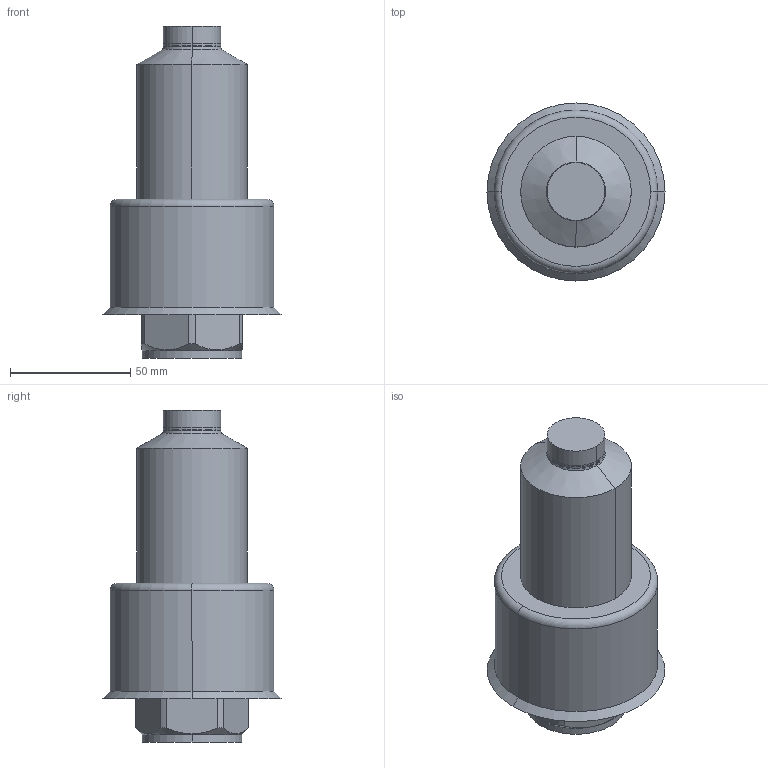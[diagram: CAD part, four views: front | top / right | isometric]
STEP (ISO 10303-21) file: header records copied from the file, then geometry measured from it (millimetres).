
FILE_DESCRIPTION (( 'STEP AP214' ), '1' );
FILE_NAME ('T16_CLOSED_120_BAND.STEP', '2009-05-11T12:59:36', ( 'Synventive Molding Solutions' ), ( 'Synventive Molding Solutions' ), 'SwSTEP 2.0', 'SolidWorks 2008', '' );
FILE_SCHEMA (( 'AUTOMOTIVE_DESIGN' ));
Length unit declared in the file: millimetre
Products named in the file (1): T16_CLOSED_120_BAND
Bounding box: 74 x 74 x 138 mm (x, y, z)
Volume: 466394.7 mm3; surface area: 52257.3 mm2
Topology: 3 solids, 3 shells, 216 faces, 554 edges, 348 vertices
Faces by surface type: cylinder 85, plane 84, torus 29, cone 14, sphere 2, bspline 2
Entity records: 9749 total; most frequent: CARTESIAN_POINT 2017, DIRECTION 1159, ORIENTED_EDGE 1104, EDGE_CURVE 552, AXIS2_PLACEMENT_3D 450, VERTEX_POINT 348, LINE 259, VECTOR 259
